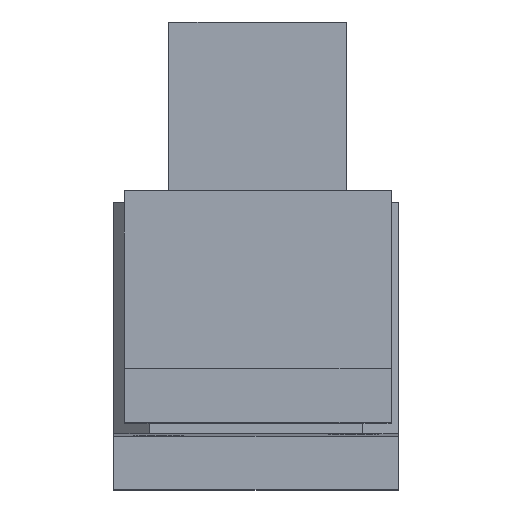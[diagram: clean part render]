
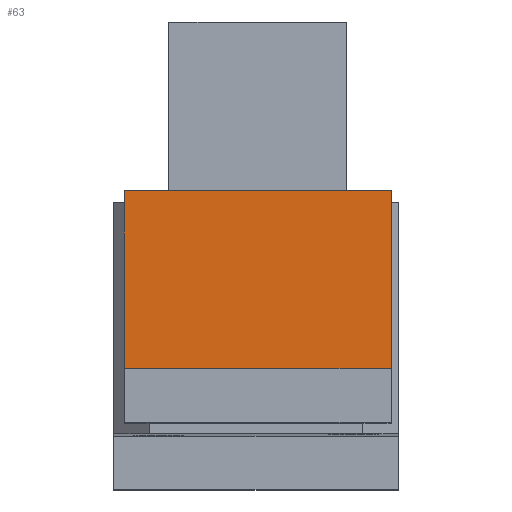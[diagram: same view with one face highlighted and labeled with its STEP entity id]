
A CAD part, top view. The second image highlights one B-rep face of the part: STEP entity #63.
In plain terms, the highlighted planar face has unit normal (0, 0, 1).
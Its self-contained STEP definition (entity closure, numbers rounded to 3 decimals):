
#63=ADVANCED_FACE('',(#344),#343,.F.);
#343=PLANE('',#862);
#344=FACE_OUTER_BOUND('',#863,.T.);
#859=CARTESIAN_POINT('',(14.6,-10.4,89.));
#860=DIRECTION('',(0.,0.,-1.));
#861=DIRECTION('',(-1.,0.,0.));
#862=AXIS2_PLACEMENT_3D('',#859,#860,#861);
#863=EDGE_LOOP('',(#1288,#1289,#1290,#1291));
#1288=ORIENTED_EDGE('',*,*,#1526,.T.);
#1289=ORIENTED_EDGE('',*,*,#1459,.F.);
#1290=ORIENTED_EDGE('',*,*,#1525,.F.);
#1291=ORIENTED_EDGE('',*,*,#1539,.T.);
#1459=EDGE_CURVE('',#1674,#1667,#1681,.T.);
#1525=EDGE_CURVE('',#2125,#1674,#2132,.T.);
#1526=EDGE_CURVE('',#2138,#1667,#2139,.T.);
#1539=EDGE_CURVE('',#2125,#2138,#2225,.T.);
#1667=VERTEX_POINT('',#2596);
#1674=VERTEX_POINT('',#2600);
#1681=LINE('',#2604,#2605);
#2125=VERTEX_POINT('',#2883);
#2132=LINE('',#2887,#2888);
#2138=VERTEX_POINT('',#2890);
#2139=LINE('',#2891,#2892);
#2225=LINE('',#2938,#2939);
#2596=CARTESIAN_POINT('',(13.1,0.6,89.));
#2600=CARTESIAN_POINT('',(-1.9,0.6,89.));
#2604=CARTESIAN_POINT('',(-1.9,0.6,89.));
#2605=VECTOR('',#2606,15.);
#2606=DIRECTION('',(1.,0.,0.));
#2883=CARTESIAN_POINT('',(-1.9,-9.4,89.));
#2887=CARTESIAN_POINT('',(-1.9,-9.4,89.));
#2888=VECTOR('',#2889,10.);
#2889=DIRECTION('',(0.,1.,0.));
#2890=CARTESIAN_POINT('',(13.1,-9.4,89.));
#2891=CARTESIAN_POINT('',(13.1,-9.4,89.));
#2892=VECTOR('',#2893,10.);
#2893=DIRECTION('',(0.,1.,0.));
#2938=CARTESIAN_POINT('',(-1.9,-9.4,89.));
#2939=VECTOR('',#2940,15.);
#2940=DIRECTION('',(1.,0.,0.));
